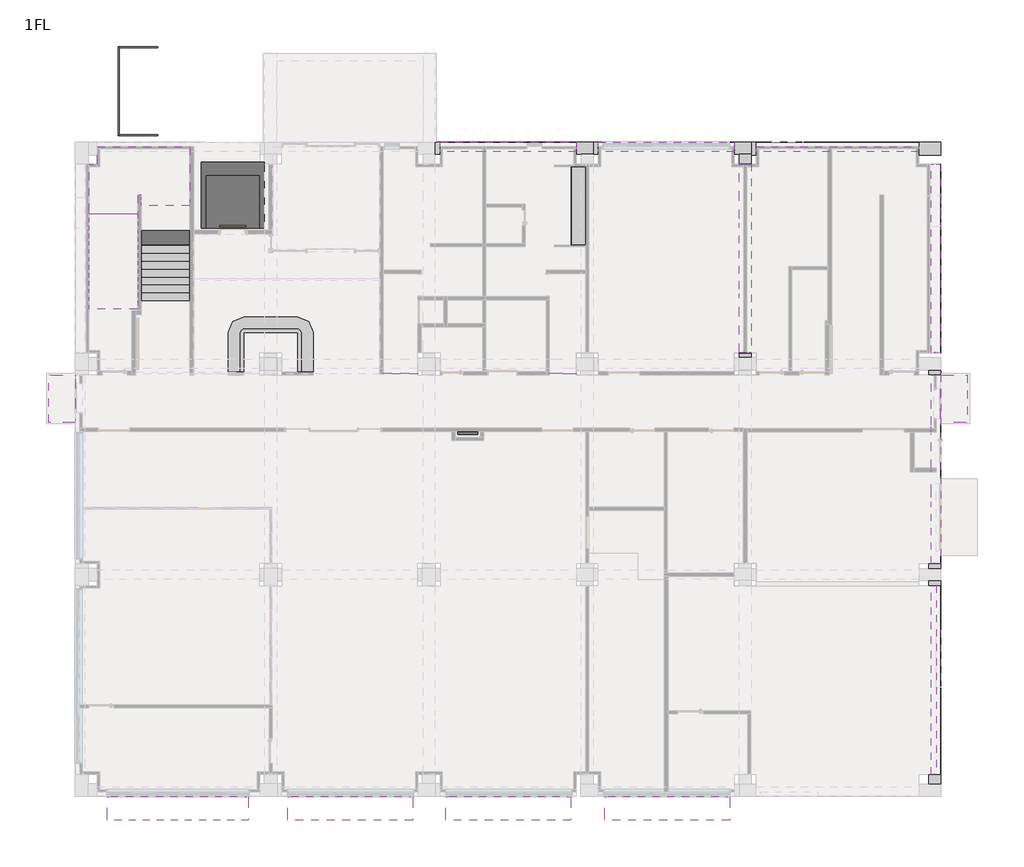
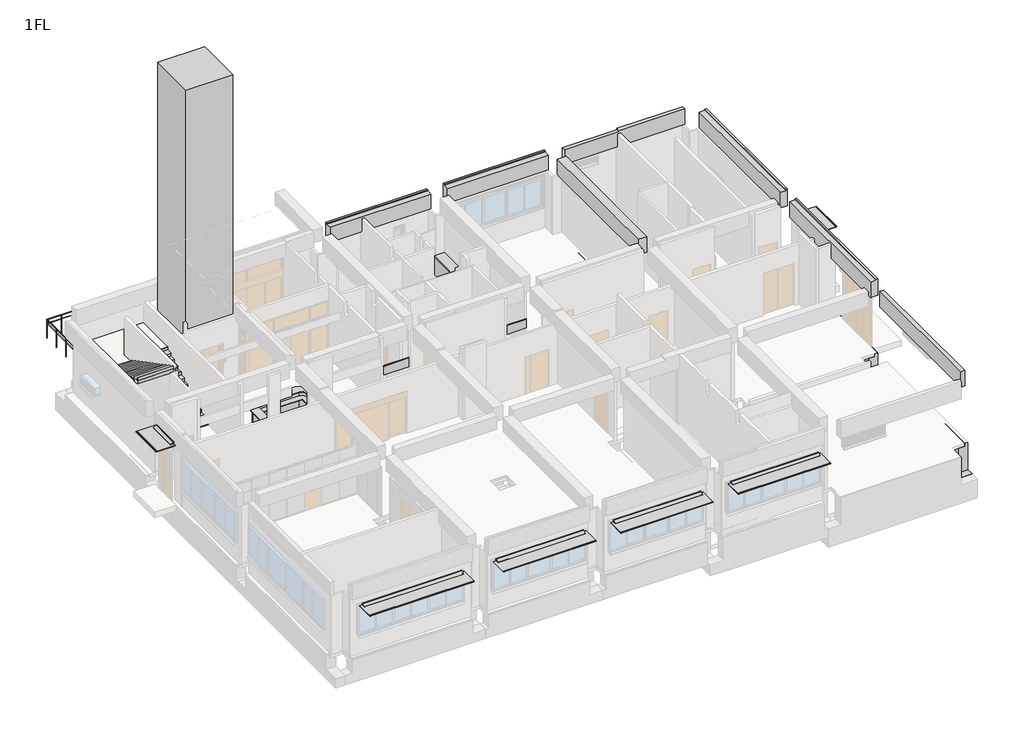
# One storey, part 7 of 7: 15 beams, 10 proxies, 2 stair flights, 1 flow terminal, 1 furniture element, 1 railing, 1 slab.
"""IFC4 building model written with IfcOpenShell, lengths in millimetres."""

from ifc_helpers import new_model, si_unit, frame, origin, place, context, project, spatial, polyline, outline, extrude, faceted_brep, transform, mapped, element, save
from components import generic_models_889831fe, generic_models_706210b3, specialty_equipment_ac76b24c, generic_models_86fe092a, mechanical_equipment_42b1760c, generic_models_8fc78ecc, generic_models_3a1368d3, flow_terminal_46fab2b1, furniture_925915f6

model = new_model("IFC4")

# Units and contexts
model_context = context("Model", 3, world=origin())
ifc_project = project(units=[si_unit("LENGTHUNIT", "METRE", prefix="MILLI")], contexts=[model_context])

# Site, building, storey
site = spatial("IfcSite", under=ifc_project)
building = spatial("IfcBuilding", under=site)
storey = spatial("IfcBuildingStorey", under=building, Name="1FL", Elevation=0.0)

# Beams
placement = place(None, origin())
element("IfcBeam", 1, ObjectType="営_RC梁 : 2-RG1 350*850", at=placement, inside=storey, context=model_context, shape_type="Brep", body=[
    faceted_brep([(18580.0, 24050.0, 3150.0), (18580.0, 24250.0, 3150.0), (18580.0, 24420.0, 3150.0), (18580.0, 24420.0, 4000.0), (18580.0, 24335.0, 4000.0), (18580.0, 24335.0, 3940.0), (18580.0, 24250.0, 3940.0), (18580.0, 24050.0, 3940.0), (13420.0, 24420.0, 4000.0), (13420.0, 24420.0, 3150.0), (13420.0, 24250.0, 3150.0), (13420.0, 24050.0, 3150.0), (13420.0, 24050.0, 3940.0), (13420.0, 24250.0, 3940.0), (13420.0, 24335.0, 3940.0), (13420.0, 24335.0, 4000.0), (15040.0, 24050.0, 3150.0), (15160.0, 24050.0, 3150.0)], [[[0, 1, 2, 3, 4, 5, 6, 7]], [[8, 9, 10, 11, 12, 13, 14, 15]], [[11, 16, 17, 0, 7, 12]], [[2, 1, 0, 17, 16, 11, 10, 9]], [[3, 2, 9, 8]], [[3, 8, 15, 4]], [[5, 14, 13, 12, 7, 6]], [[14, 5, 4, 15]]]),
])
element("IfcBeam", 2, ObjectType="営_RC梁 : 2-RG1 350*850", at=placement, inside=storey, context=model_context, shape_type="Brep", body=[
    faceted_brep([(24580.0, 24050.0, 3150.0), (24580.0, 24250.0, 3150.0), (24580.0, 24420.0, 3150.0), (24580.0, 24420.0, 4000.0), (24580.0, 24335.0, 4000.0), (24580.0, 24335.0, 3940.0), (24580.0, 24250.0, 3940.0), (24580.0, 24050.0, 3940.0), (19420.0, 24420.0, 4000.0), (19420.0, 24420.0, 3150.0), (19420.0, 24250.0, 3150.0), (19420.0, 24050.0, 3150.0), (19420.0, 24050.0, 3940.0), (19420.0, 24250.0, 3940.0), (19420.0, 24335.0, 3940.0), (19420.0, 24335.0, 4000.0)], [[[0, 1, 2, 3, 4, 5, 6, 7]], [[8, 9, 10, 11, 12, 13, 14, 15]], [[11, 0, 7, 12]], [[2, 1, 0, 11, 10, 9]], [[3, 2, 9, 8]], [[3, 8, 15, 4]], [[5, 14, 13, 12, 7, 6]], [[14, 5, 4, 15]]]),
])
element("IfcBeam", 3, ObjectType="営_RC梁 : 2-RG1 350*850", at=placement, inside=storey, context=model_context, shape_type="SweptSolid", body=[
    extrude(outline(polyline([(3150.0, 31579.9999994), (4000.0, 31579.9999994), (4000.0, 28200.0), (3940.0, 28200.0), (3940.0, 25420.0), (3150.0, 25420.0), (3150.0, 31579.9999994)])), frame((0.0, 24050.0, 0.0), z_axis=(0.0, 1.0, 0.0), x_axis=(0.0, 0.0, 1.0)), (0.0, 0.0, 1.0), 200.0),
])
element("IfcBeam", 4, ObjectType="営_RC梁 : 2-4G12 450*900", at=placement, inside=storey, context=model_context, shape_type="Brep", body=[
    faceted_brep([(25225.0, 16420.0, 3100.0), (25225.0, 23580.0, 3100.0), (25225.0, 23580.0, 3940.0), (25225.0, 16420.0, 3940.0), (25060.0, 16420.0, 3100.0), (24940.0, 16420.0, 3100.0), (24775.0, 16420.0, 3100.0), (24775.0, 23580.0, 3100.0), (24940.0, 23580.0, 3100.0), (25060.0, 23580.0, 3100.0), (24775.0, 16420.0, 3940.0), (24775.0, 18495.0, 3940.0), (24775.0, 18845.0, 3940.0), (24775.0, 21165.0, 3940.0), (24775.0, 21515.0, 3940.0), (24775.0, 23580.0, 3940.0)], [[[0, 1, 2, 3]], [[0, 4, 5, 6, 7, 8, 9, 1]], [[7, 6, 10, 11, 12, 13, 14, 15]], [[6, 5, 4, 0, 3, 10]], [[1, 9, 8, 7, 15, 2]], [[3, 2, 15, 14, 13, 12, 11, 10]]]),
])
element("IfcBeam", 5, ObjectType="営_RC梁 : 2-RG11 350*900", at=placement, inside=storey, context=model_context, shape_type="SweptSolid", body=[
    extrude(outline(polyline([(32050.0, 420.0), (32050.0, 7580.0), (32250.0, 7580.0), (32250.0, 420.0), (32050.0, 420.0)])), frame((0.0, 0.0, 3100.0), z_axis=(0.0, 0.0, 1.0), x_axis=(1.0, 0.0, 0.0)), (0.0, 0.0, 1.0), 840.0),
])
element("IfcBeam", 6, ObjectType="営_RC梁 : 2-RG11 350*900", at=placement, inside=storey, context=model_context, shape_type="Brep", body=[
    faceted_brep([(32420.0, 15580.0, 4000.0), (32420.0, 15580.0, 3100.0), (32250.0, 15580.0, 3100.0), (32050.0, 15580.0, 3100.0), (32050.0, 15580.0, 3940.0), (32250.0, 15580.0, 3940.0), (32325.0, 15580.0, 3940.0), (32325.0, 15580.0, 4000.0), (32050.0, 8420.0, 3100.0), (32250.0, 8420.0, 3100.0), (32420.0, 8420.0, 3100.0), (32420.0, 8420.0, 4000.0), (32325.0, 8420.0, 4000.0), (32325.0, 8420.0, 3940.0), (32250.0, 8420.0, 3940.0), (32050.0, 8420.0, 3940.0), (32050.0, 11905.0, 3100.0), (32050.0, 12055.0, 3100.0), (32050.0, 13405.0, 3100.0), (32050.0, 13555.0, 3100.0), (32050.0, 10575.0, 3940.0), (32050.0, 10925.0, 3940.0), (32050.0, 13325.0, 3940.0), (32050.0, 13675.0, 3940.0)], [[[0, 1, 2, 3, 4, 5, 6, 7]], [[8, 9, 10, 11, 12, 13, 14, 15]], [[1, 0, 11, 10]], [[3, 2, 1, 10, 9, 8, 16, 17, 18, 19]], [[3, 19, 18, 17, 16, 8, 15, 20, 21, 22, 23, 4]], [[11, 0, 7, 12]], [[13, 6, 5, 4, 23, 22, 21, 20, 15, 14]], [[6, 13, 12, 7]]]),
])
element("IfcBeam", 7, ObjectType="営_RC梁 : 2-RG11 350*900", at=placement, inside=storey, context=model_context, shape_type="Brep", body=[
    faceted_brep([(32420.0, 23580.0, 4000.0), (32420.0, 23580.0, 3100.0), (32250.0, 23580.0, 3100.0), (32050.0, 23580.0, 3100.0), (32050.0, 23580.0, 3940.0), (32250.0, 23580.0, 3940.0), (32325.0, 23580.0, 3940.0), (32325.0, 23580.0, 4000.0), (32050.0, 16420.0, 3100.0), (32250.0, 16420.0, 3100.0), (32420.0, 16420.0, 3100.0), (32420.0, 16420.0, 4000.0), (32325.0, 16420.0, 4000.0), (32325.0, 16420.0, 3940.0), (32250.0, 16420.0, 3940.0), (32050.0, 16420.0, 3940.0), (32325.0, 16669.8819845, 4000.0), (32325.0, 16669.8819845, 3940.0)], [[[0, 1, 2, 3, 4, 5, 6, 7]], [[8, 9, 10, 11, 12, 13, 14, 15]], [[1, 0, 11, 10]], [[3, 2, 1, 10, 9, 8]], [[3, 8, 15, 4]], [[11, 0, 7, 16, 12]], [[17, 6, 5, 4, 15, 14, 13]], [[17, 13, 12, 16]], [[6, 17, 16, 7]]]),
])
element("IfcBeam", 8, ObjectType="営_RC梁 : FG3 450*1850", at=placement, inside=storey, context=model_context, shape_type="Brep", body=[
    faceted_brep([(19225.0, 23950.0, -1950.0), (19225.0, 23950.0, -1350.0), (18775.0, 23950.0, -1350.0), (18600.0, 23950.0, -1350.0), (18580.0, 23950.0, -1350.0), (18580.0, 23950.0, -160.0), (13420.0, 23950.0, -160.0), (13420.0, 23950.0, -1350.0), (13400.0, 23950.0, -1350.0), (13225.0, 23950.0, -1350.0), (13225.0, 23950.0, -1950.0), (14350.0, 23950.0, -1950.0), (17650.0, 23950.0, -1950.0), (18775.0, 23950.0, -1950.0), (19225.0, 24420.0, -1950.0), (13225.0, 24420.0, -1950.0), (14350.0, 24420.0, -1950.0), (17650.0, 24420.0, -1950.0), (13420.0, 24420.0, -1350.0), (13420.0, 24420.0, -10.0), (16740.0, 24420.0, -10.0), (17260.0, 24420.0, -10.0), (18580.0, 24420.0, -10.0), (18580.0, 24420.0, -1350.0), (19225.0, 24420.0, -1350.0), (13225.0, 24420.0, -1350.0), (13420.0, 24250.0, -10.0), (16710.0, 24250.0, -10.0), (17290.0, 24250.0, -10.0), (18580.0, 24250.0, -10.0), (13420.0, 24250.0, -160.0), (18580.0, 24250.0, -160.0)], [[[0, 1, 2, 3, 4, 5, 6, 7, 8, 9, 10, 11, 12, 13]], [[14, 0, 13, 12, 11, 10, 15, 16, 17]], [[18, 19, 20, 21, 22, 23, 24, 14, 17, 16, 15, 25]], [[22, 21, 20, 19, 26, 27, 28, 29]], [[19, 18, 7, 6, 30, 26]], [[23, 22, 29, 31, 5, 4]], [[0, 14, 24, 1]], [[7, 18, 25, 9, 8]], [[23, 4, 3, 2, 1, 24]], [[10, 9, 25, 15]], [[31, 30, 6, 5]], [[30, 31, 29, 28, 27, 26]]]),
])
element("IfcBeam", 9, ObjectType="営_RC梁 : FG3 450*1850", at=placement, inside=storey, context=model_context, shape_type="Brep", body=[
    faceted_brep([(25225.0, 23950.0, -1950.0), (25225.0, 23950.0, -1350.0), (24775.0, 23950.0, -1350.0), (24600.0, 23950.0, -1350.0), (24580.0, 23950.0, -1350.0), (24580.0, 23950.0, -250.0), (19420.0, 23950.0, -250.0), (19420.0, 23950.0, -1350.0), (19400.0, 23950.0, -1350.0), (19225.0, 23950.0, -1350.0), (19225.0, 23950.0, -1950.0), (20350.0, 23950.0, -1950.0), (23650.0, 23950.0, -1950.0), (24775.0, 23950.0, -1950.0), (25225.0, 24420.0, -1950.0), (19225.0, 24420.0, -1950.0), (20350.0, 24420.0, -1950.0), (23650.0, 24420.0, -1950.0), (19420.0, 24420.0, -1350.0), (19420.0, 24420.0, -10.0), (24580.0, 24420.0, -10.0), (24580.0, 24420.0, -1350.0), (25225.0, 24420.0, -1350.0), (19225.0, 24420.0, -1350.0), (19420.0, 24250.0, -10.0), (19420.0, 23950.0, -10.0), (24580.0, 23950.0, -10.0), (24580.0, 24250.0, -10.0), (19420.0, 24250.0, -250.0), (19420.0, 24250.0, -100.0), (19420.0, 23950.0, -100.0), (24580.0, 23950.0, -100.0), (24580.0, 24250.0, -100.0), (24580.0, 24250.0, -250.0)], [[[0, 1, 2, 3, 4, 5, 6, 7, 8, 9, 10, 11, 12, 13]], [[14, 0, 13, 12, 11, 10, 15, 16, 17]], [[18, 19, 20, 21, 22, 14, 17, 16, 15, 23]], [[19, 24, 25, 26, 27, 20]], [[19, 18, 7, 6, 28, 29, 30, 25, 24]], [[21, 20, 27, 26, 31, 32, 33, 5, 4]], [[0, 14, 22, 1]], [[7, 18, 23, 9, 8]], [[21, 4, 3, 2, 1, 22]], [[10, 9, 23, 15]], [[33, 28, 6, 5]], [[29, 32, 31, 30]], [[28, 33, 32, 29]], [[26, 25, 30, 31]]]),
])
element("IfcBeam", 10, ObjectType="営_RC梁 : FG13 450*1850", at=placement, inside=storey, context=model_context, shape_type="Brep", body=[
    faceted_brep([(25225.0, 16420.0, -1500.0), (25225.0, 16400.0, -1500.0), (25225.0, 16245.0, -1500.0), (25225.0, 16245.0, -1950.0), (25225.0, 17650.0, -1950.0), (25225.0, 22650.0, -1950.0), (25225.0, 23930.0, -1950.0), (25225.0, 23950.0, -1950.0), (25225.0, 23950.0, -1350.0), (25225.0, 23930.0, -1350.0), (25225.0, 23600.0, -1350.0), (25225.0, 23580.0, -1350.0), (25225.0, 23580.0, -160.0), (25225.0, 16420.0, -160.0), (24775.0, 16245.0, -1950.0), (24775.0, 17650.0, -1950.0), (24775.0, 22650.0, -1950.0), (24775.0, 23950.0, -1950.0), (24775.0, 16245.0, -1500.0), (24775.0, 16420.0, -1500.0), (24775.0, 16400.0, -1500.0), (24775.0, 23580.0, -1350.0), (24775.0, 23950.0, -1350.0), (24775.0, 23600.0, -1350.0), (25000.0, 23580.0, -160.0), (25000.0, 16420.0, -160.0), (25000.0, 16420.0, -250.0), (25000.0, 23580.0, -250.0), (24775.0, 23580.0, -250.0), (24775.0, 21515.0, -250.0), (24775.0, 21165.0, -250.0), (24775.0, 16420.0, -250.0)], [[[0, 1, 2, 3, 4, 5, 6, 7, 8, 9, 10, 11, 12, 13]], [[3, 14, 15, 16, 17, 7, 6, 5, 4]], [[14, 3, 2, 18]], [[0, 19, 20, 18, 2, 1]], [[21, 11, 10, 9, 8, 22, 23]], [[8, 7, 17, 22]], [[13, 12, 24, 25]], [[26, 27, 28, 29, 30, 31]], [[27, 26, 25, 24]], [[18, 20, 19, 31, 30, 29, 28, 21, 23, 22, 17, 16, 15, 14]], [[19, 0, 13, 25, 26, 31]], [[11, 21, 28, 27, 24, 12]]]),
    faceted_brep([(24775.0, 16420.0, -10.0), (24775.0, 23580.0, -10.0), (24775.0, 23580.0, -100.0), (24775.0, 16420.0, -100.0), (25000.0, 16420.0, -10.0), (25000.0, 23580.0, -10.0), (25000.0, 16420.0, -100.0), (25000.0, 23580.0, -100.0)], [[[0, 1, 2, 3]], [[1, 0, 4, 5]], [[4, 0, 3, 6]], [[1, 5, 7, 2]], [[5, 4, 6, 7]], [[3, 2, 7, 6]]]),
])
element("IfcBeam", 11, ObjectType="営_RC梁 : FG3 450*1850", at=placement, inside=storey, context=model_context, shape_type="Brep", body=[
    faceted_brep([(25225.0, 23930.0, -1350.0), (25225.0, 23930.0, -1950.0), (26350.0, 23930.0, -1950.0), (28025.0, 23930.0, -1950.0), (28395.0, 23930.0, -1950.0), (30650.0, 23930.0, -1950.0), (32420.0, 23930.0, -1950.0), (32420.0, 23930.0, -1354.2105263), (32420.0, 23930.0, -1350.0), (32400.0, 23930.0, -1350.0), (31600.0, 23930.0, -1350.0), (31580.0, 23930.0, -1350.0), (31580.0, 23930.0, -160.0), (28395.0, 23930.0, -160.0), (28025.0, 23930.0, -160.0), (25420.0, 23930.0, -160.0), (25420.0, 23930.0, -1350.0), (25400.0, 23930.0, -1350.0), (32420.0, 24420.0, -1950.0), (25225.0, 23950.0, -1950.0), (25225.0, 24420.0, -1950.0), (26350.0, 24420.0, -1950.0), (30650.0, 24420.0, -1950.0), (25420.0, 24420.0, -1350.0), (25420.0, 24420.0, -10.0), (31580.0, 24420.0, -10.0), (31580.0, 24420.0, -1350.0), (32420.0, 24420.0, -1350.0), (32420.0, 24420.0, -1354.2105263), (25225.0, 24420.0, -1350.0), (25420.0, 24250.0, -10.0), (31580.0, 24250.0, -10.0), (25225.0, 23950.0, -1350.0), (25420.0, 24250.0, -160.0), (31580.0, 24250.0, -160.0)], [[[0, 1, 2, 3, 4, 5, 6, 7, 8, 9, 10, 11, 12, 13, 14, 15, 16, 17]], [[18, 6, 5, 4, 3, 2, 1, 19, 20, 21, 22]], [[23, 24, 25, 26, 27, 28, 18, 22, 21, 20, 29]], [[25, 24, 30, 31]], [[20, 19, 1, 0, 32, 29]], [[24, 23, 16, 15, 33, 30]], [[26, 25, 31, 34, 12, 11]], [[6, 18, 28, 27, 8, 7]], [[16, 23, 29, 32, 0, 17]], [[26, 11, 10, 9, 8, 27]], [[34, 33, 15, 14, 13, 12]], [[33, 34, 31, 30]]]),
])
element("IfcBeam", 12, ObjectType="営_RC梁 : FG14 450*2400", at=placement, inside=storey, context=model_context, shape_type="Brep", body=[
    faceted_brep([(32420.0, 420.0, -10.0), (32420.0, 420.0, -1500.0), (32420.0, 50.0, -1500.0), (32420.0, 50.0, -2500.0), (32420.0, 1500.0, -2500.0), (32420.0, 6500.0, -2500.0), (32420.0, 7775.0, -2500.0), (32420.0, 7775.0, -1500.0), (32420.0, 7580.0, -1500.0), (32420.0, 7580.0, -10.0), (31950.0, 50.0, -2500.0), (31950.0, 1500.0, -2500.0), (31950.0, 6500.0, -2500.0), (31950.0, 7775.0, -2500.0), (31950.0, 50.0, -1500.0), (31950.0, 400.0, -1500.0), (31950.0, 420.0, -1500.0), (31950.0, 420.0, -160.0), (31950.0, 7580.0, -160.0), (31950.0, 7580.0, -1500.0), (31950.0, 7600.0, -1500.0), (31950.0, 7775.0, -1500.0), (32250.0, 7580.0, -10.0), (32250.0, 420.0, -10.0), (32250.0, 420.0, -160.0), (32250.0, 7580.0, -160.0)], [[[0, 1, 2, 3, 4, 5, 6, 7, 8, 9]], [[3, 10, 11, 12, 13, 6, 5, 4]], [[14, 15, 16, 17, 18, 19, 20, 21, 13, 12, 11, 10]], [[0, 9, 22, 23]], [[1, 0, 23, 24, 17, 16]], [[9, 8, 19, 18, 25, 22]], [[1, 16, 15, 14, 2]], [[19, 8, 7, 21, 20]], [[3, 2, 14, 10]], [[7, 6, 13, 21]], [[24, 25, 18, 17]], [[25, 24, 23, 22]]]),
])
element("IfcBeam", 13, ObjectType="営_RC梁 : FG14 450*2400", at=placement, inside=storey, context=model_context, shape_type="Brep", body=[
    faceted_brep([(32420.0, 15580.0, -1900.0), (32420.0, 15580.0, -10.0), (32420.0, 8420.0, -10.0), (32420.0, 8420.0, -1500.0), (32420.0, 8225.0, -1500.0), (32420.0, 8225.0, -2500.0), (32420.0, 9500.0, -2500.0), (32420.0, 14650.0, -2500.0), (32420.0, 15775.0, -2500.0), (32420.0, 15775.0, -1900.0), (31950.0, 8225.0, -2500.0), (31950.0, 9500.0, -2500.0), (31950.0, 14650.0, -2500.0), (31950.0, 15775.0, -2500.0), (31950.0, 8225.0, -1500.0), (31950.0, 8400.0, -1500.0), (31950.0, 8420.0, -1500.0), (31950.0, 8420.0, -160.0), (31950.0, 10575.0, -160.0), (31950.0, 10925.0, -160.0), (31950.0, 13325.0, -160.0), (31950.0, 13675.0, -160.0), (31950.0, 15580.0, -160.0), (31950.0, 15580.0, -1900.0), (31950.0, 15600.0, -1900.0), (31950.0, 15775.0, -1900.0), (32250.0, 15580.0, -10.0), (32250.0, 13555.0, -10.0), (32250.0, 8420.0, -10.0), (32250.0, 8420.0, -160.0), (32250.0, 15580.0, -160.0), (32250.0, 13555.0, -160.0)], [[[0, 1, 2, 3, 4, 5, 6, 7, 8, 9]], [[5, 10, 11, 12, 13, 8, 7, 6]], [[14, 15, 16, 17, 18, 19, 20, 21, 22, 23, 24, 25, 13, 12, 11, 10]], [[2, 1, 26, 27, 28]], [[16, 3, 2, 28, 29, 17]], [[1, 0, 23, 22, 30, 26]], [[3, 16, 15, 14, 4]], [[23, 0, 9, 25, 24]], [[5, 4, 14, 10]], [[9, 8, 13, 25]], [[29, 31, 30, 22, 21, 20, 19, 18, 17]], [[31, 27, 26, 30]], [[27, 31, 29, 28]]]),
])
element("IfcBeam", 14, ObjectType="営_RC梁 : FG11 450*1200", at=placement, inside=storey, context=model_context, shape_type="Brep", body=[
    faceted_brep([(32420.0, 16420.0, -10.0), (32420.0, 16420.0, -1300.0), (32420.0, 23580.0, -1300.0), (32420.0, 23580.0, -10.0), (31930.0, 16420.0, -1300.0), (31930.0, 23580.0, -1300.0), (31930.0, 16420.0, -160.0), (31930.0, 17955.0, -160.0), (31930.0, 18245.0, -160.0), (31930.0, 23580.0, -160.0), (32250.0, 23580.0, -10.0), (32250.0, 16420.0, -10.0), (32250.0, 16420.0, -160.0), (32250.0, 23580.0, -160.0)], [[[0, 1, 2, 3]], [[1, 4, 5, 2]], [[5, 4, 6, 7, 8, 9]], [[0, 3, 10, 11]], [[1, 0, 11, 12, 6, 4]], [[3, 2, 5, 9, 13, 10]], [[12, 13, 9, 8, 7, 6]], [[13, 12, 11, 10]]]),
])
element("IfcBeam", 15, ObjectType="営_RC梁 : B4 350*750", at=placement, inside=storey, context=model_context, shape_type="Brep", body=[
    faceted_brep([(28395.0, 16245.0, -1950.0), (28395.0, 23930.0, -1950.0), (28395.0, 23930.0, -160.0), (28395.0, 18245.0, -160.0), (28395.0, 17955.0, -160.0), (28395.0, 16245.0, -160.0), (28025.0, 16245.0, -1950.0), (28025.0, 23930.0, -1950.0), (28025.0, 16245.0, -160.0), (28025.0, 23930.0, -160.0)], [[[0, 1, 2, 3, 4, 5]], [[0, 6, 7, 1]], [[7, 6, 8, 9]], [[1, 7, 9, 2]], [[6, 0, 5, 8]], [[5, 4, 3, 2, 9, 8]]]),
])

# Proxies
generic_models_shape = generic_models_889831fe(model_context)
element("IfcBuildingElementProxy", 16, Name="営_付庇_窓 : 付庇", ObjectType="営_付庇_窓 : 付庇", at=placement, inside=storey, context=model_context, shape_type="MappedRepresentation", body=[
    mapped(generic_models_shape, transform((3476.2951348, -420.0, 0.0), x_axis=(1.0, 0.0, 0.0), y_axis=(0.0, 1.0, 0.0), z_axis=(0.0, 0.0, 1.0))),
])
generic_models_2_shape = generic_models_706210b3(model_context)
element("IfcBuildingElementProxy", 17, Name="営_付庇_窓 : 付庇", ObjectType="営_付庇_窓 : 付庇", at=placement, inside=storey, context=model_context, shape_type="MappedRepresentation", body=[
    mapped(generic_models_2_shape, transform((10011.2951348, -420.0, 0.0), x_axis=(1.0, 0.0, 0.0), y_axis=(0.0, 1.0, 0.0), z_axis=(0.0, 0.0, 1.0))),
])
element("IfcBuildingElementProxy", 18, Name="営_付庇_窓 : 付庇", ObjectType="営_付庇_窓 : 付庇", at=placement, inside=storey, context=model_context, shape_type="MappedRepresentation", body=[
    mapped(generic_models_2_shape, transform((16011.2951348, -420.0, 0.0), x_axis=(1.0, 0.0, 0.0), y_axis=(0.0, 1.0, 0.0), z_axis=(0.0, 0.0, 1.0))),
])
element("IfcBuildingElementProxy", 19, Name="営_付庇_窓 : 付庇", ObjectType="営_付庇_窓 : 付庇", at=placement, inside=storey, context=model_context, shape_type="MappedRepresentation", body=[
    mapped(generic_models_2_shape, transform((22031.2951348, -420.0, 0.0), x_axis=(1.0, 0.0, 0.0), y_axis=(0.0, 1.0, 0.0), z_axis=(0.0, 0.0, 1.0))),
])
specialty_equipment_shape = specialty_equipment_ac76b24c(model_context)
element("IfcBuildingElementProxy", 20, Name="営_屋内消火栓 : 屋内消火栓", ObjectType="営_屋内消火栓 : 屋内消火栓", at=placement, inside=storey, context=model_context, shape_type="MappedRepresentation", body=[
    mapped(specialty_equipment_shape, transform((14470.0, 13560.0, 0.0), x_axis=(1.0, 0.0, 0.0), y_axis=(0.0, 1.0, 0.0), z_axis=(0.0, 0.0, 1.0))),
])
generic_models_3_shape = generic_models_86fe092a(model_context)
element("IfcBuildingElementProxy", 21, Name="営_付庇_小 : 付庇_小", ObjectType="営_付庇_小 : 付庇_小", at=placement, inside=storey, context=model_context, shape_type="MappedRepresentation", body=[
    mapped(generic_models_3_shape, transform((-419.6538678, 14680.0, 0.0), x_axis=(0.0, -1.0, 0.0), y_axis=(1.0, 0.0, 0.0), z_axis=(0.0, 0.0, 1.0))),
])
element("IfcBuildingElementProxy", 22, Name="営_付庇_小 : 付庇_小", ObjectType="営_付庇_小 : 付庇_小", at=placement, inside=storey, context=model_context, shape_type="MappedRepresentation", body=[
    mapped(generic_models_3_shape, transform((32420.0, 14680.0, 0.0), x_axis=(0.0, 1.0, 0.0), y_axis=(-1.0, 0.0, 0.0), z_axis=(0.0, 0.0, 1.0))),
])
mechanical_equipment_shape = mechanical_equipment_42b1760c(model_context)
element("IfcBuildingElementProxy", 23, Name="営_EV 3D 簡易 : 営_EV 3D 簡易", ObjectType="営_EV 3D 簡易 : 営_EV 3D 簡易", at=placement, inside=storey, context=model_context, shape_type="MappedRepresentation", body=[
    mapped(mechanical_equipment_shape, transform((5560.0, 21000.0, 0.0), x_axis=(1.0, 0.0, 0.0), y_axis=(0.0, 1.0, 0.0), z_axis=(0.0, 0.0, 1.0))),
])
generic_models_4_shape = generic_models_8fc78ecc(model_context)
element("IfcBuildingElementProxy", 24, Name="防煙垂壁 : 可動防煙垂壁", ObjectType="防煙垂壁 : 可動防煙垂壁", at=placement, inside=storey, context=model_context, shape_type="MappedRepresentation", body=[
    mapped(generic_models_4_shape, transform((12580.0, 15630.0, 0.0), x_axis=(-1.0, 0.0, 0.0), y_axis=(0.0, -1.0, 0.0), z_axis=(0.0, 0.0, 1.0))),
])
generic_models_5_shape = generic_models_3a1368d3(model_context)
element("IfcBuildingElementProxy", 25, Name="防煙垂壁 : 可動防煙垂壁", ObjectType="防煙垂壁 : 可動防煙垂壁", at=placement, inside=storey, context=model_context, shape_type="MappedRepresentation", body=[
    mapped(generic_models_5_shape, transform((18580.0, 15630.0, 0.0), x_axis=(-1.0, 0.0, 0.0), y_axis=(0.0, -1.0, 0.0), z_axis=(0.0, 0.0, 1.0))),
])

# Flow terminal
flow_terminal_shape = flow_terminal_46fab2b1(model_context)
element("IfcFlowTerminal", 26, ObjectType="ライニング : ライニング", at=placement, inside=storey, context=model_context, shape_type="MappedRepresentation", body=[
    mapped(flow_terminal_shape, transform((19000.0, 21870.0, 0.0), x_axis=(0.0, 1.0, 0.0), y_axis=(-1.0, 0.0, 0.0), z_axis=(0.0, 0.0, 1.0))),
])

# Furniture
furniture_shape = furniture_925915f6(model_context)
element("IfcFurniture", 27, ObjectType="営_受付カウンター_3D : 受付カウンター_3D", at=placement, inside=storey, context=model_context, shape_type="MappedRepresentation", body=[
    mapped(furniture_shape, transform((0.0, 0.0, 0.0), x_axis=(1.0, 0.0, 0.0), y_axis=(0.0, 1.0, 0.0), z_axis=(0.0, 0.0, 1.0))),
])

# Railing
element("IfcRailing", 28, ObjectType="外部スロープ手摺_H=1000", at=placement, inside=storey, context=model_context, shape_type="SolidModel", body=[
    faceted_brep([(1211.0, 28044.0, 801.0), (1249.0, 28006.0, 801.0), (1249.0, 24694.0, 801.0), (1211.0, 24656.0, 801.0), (1211.0, 28044.0, 810.0), (1211.0, 24656.0, 810.0), (1249.0, 28006.0, 810.0), (1249.0, 24694.0, 810.0), (2715.0, 28006.0, 801.0), (2715.0, 28044.0, 801.0), (2715.0, 28044.0, 810.0), (2715.0, 28006.0, 810.0), (2715.0, 24694.0, 801.0), (2715.0, 24694.0, 810.0), (2715.0, 24656.0, 810.0), (2715.0, 24656.0, 801.0)], [[[0, 1, 2, 3]], [[4, 0, 3, 5]], [[6, 4, 5, 7]], [[1, 6, 7, 2]], [[8, 9, 10, 11]], [[9, 8, 1, 0]], [[10, 9, 0, 4]], [[11, 10, 4, 6]], [[8, 11, 6, 1]], [[12, 13, 14, 15]], [[3, 2, 12, 15]], [[5, 3, 15, 14]], [[7, 5, 14, 13]], [[2, 7, 13, 12]]]),
    faceted_brep([(1217.5, 28037.5, 610.0), (1217.5, 28037.5, 601.0), (1217.5, 24662.5, 601.0), (1217.5, 24662.5, 610.0), (1242.5, 28012.5, 610.0), (1242.5, 24687.5, 610.0), (1242.5, 28012.5, 601.0), (1242.5, 24687.5, 601.0), (2715.0, 28037.5, 601.0), (2715.0, 28037.5, 610.0), (2715.0, 28012.5, 610.0), (2715.0, 28012.5, 601.0), (2715.0, 24662.5, 601.0), (2715.0, 24687.5, 601.0), (2715.0, 24687.5, 610.0), (2715.0, 24662.5, 610.0)], [[[0, 1, 2, 3]], [[4, 0, 3, 5]], [[6, 4, 5, 7]], [[1, 6, 7, 2]], [[8, 9, 10, 11]], [[9, 8, 1, 0]], [[10, 9, 0, 4]], [[11, 10, 4, 6]], [[8, 11, 6, 1]], [[12, 13, 14, 15]], [[3, 2, 12, 15]], [[5, 3, 15, 14]], [[7, 5, 14, 13]], [[2, 7, 13, 12]]]),
    extrude(outline(polyline([(1968.0, 24662.5), (1968.0, 24687.5), (1977.0, 24687.5), (1977.0, 24662.5), (1968.0, 24662.5)])), frame((0.0, 0.0, -190.0), z_axis=(0.0, 0.0, 1.0), x_axis=(1.0, 0.0, 0.0)), (0.0, 0.0, 1.0), 991.0),
    extrude(outline(polyline([(1217.5, 25517.0), (1242.5, 25517.0), (1242.5, 25508.0), (1217.5, 25508.0), (1217.5, 25517.0)])), frame((0.0, 0.0, -190.0), z_axis=(0.0, 0.0, 1.0), x_axis=(1.0, 0.0, 0.0)), (0.0, 0.0, 1.0), 991.0),
    extrude(outline(polyline([(1217.5, 26354.5), (1242.5, 26354.5), (1242.5, 26345.5), (1217.5, 26345.5), (1217.5, 26354.5)])), frame((0.0, 0.0, -190.0), z_axis=(0.0, 0.0, 1.0), x_axis=(1.0, 0.0, 0.0)), (0.0, 0.0, 1.0), 991.0),
    extrude(outline(polyline([(1217.5, 27192.0), (1242.5, 27192.0), (1242.5, 27183.0), (1217.5, 27183.0), (1217.5, 27192.0)])), frame((0.0, 0.0, -190.0), z_axis=(0.0, 0.0, 1.0), x_axis=(1.0, 0.0, 0.0)), (0.0, 0.0, 1.0), 991.0),
    extrude(outline(polyline([(1977.0, 28037.5), (1977.0, 28012.5), (1968.0, 28012.5), (1968.0, 28037.5), (1977.0, 28037.5)])), frame((0.0, 0.0, -190.0), z_axis=(0.0, 0.0, 1.0), x_axis=(1.0, 0.0, 0.0)), (0.0, 0.0, 1.0), 991.0),
    extrude(outline(polyline([(1217.5, 24679.5), (1242.5, 24679.5), (1242.5, 24670.5), (1217.5, 24670.5), (1217.5, 24679.5)])), frame((0.0, 0.0, -190.0), z_axis=(0.0, 0.0, 1.0), x_axis=(1.0, 0.0, 0.0)), (0.0, 0.0, 1.0), 991.0),
    extrude(outline(polyline([(1234.5, 28037.5), (1234.5, 28012.5), (1225.5, 28012.5), (1225.5, 28037.5), (1234.5, 28037.5)])), frame((0.0, 0.0, -190.0), z_axis=(0.0, 0.0, 1.0), x_axis=(1.0, 0.0, 0.0)), (0.0, 0.0, 1.0), 991.0),
    extrude(outline(polyline([(2660.5, 24662.5), (2660.5, 24687.5), (2669.5, 24687.5), (2669.5, 24662.5), (2660.5, 24662.5)])), frame((0.0, 0.0, -190.0), z_axis=(0.0, 0.0, 1.0), x_axis=(1.0, 0.0, 0.0)), (0.0, 0.0, 1.0), 991.0),
    extrude(outline(polyline([(2669.5, 28037.5), (2669.5, 28012.5), (2660.5, 28012.5), (2660.5, 28037.5), (2669.5, 28037.5)])), frame((0.0, 0.0, -190.0), z_axis=(0.0, 0.0, 1.0), x_axis=(1.0, 0.0, 0.0)), (0.0, 0.0, 1.0), 991.0),
])

# Slab
element("IfcSlab", 29, ObjectType="200+20", at=placement, inside=storey, context=model_context, shape_type="Brep", body=[
    faceted_brep([(115.0, 21700.0, 2030.0), (115.0, 21680.0, 2030.0), (1945.0, 21680.0, 2030.0), (1945.0, 21700.0, 2030.0), (1945.0, 21776.1491315, 2030.0), (1945.0, 22410.0, 2030.0), (2095.0, 22410.0, 2030.0), (2095.0, 22223.8508685, 2030.0), (2095.0, 22020.0, 2030.0), (3925.0, 22020.0, 2030.0), (3925.0, 22223.8508685, 2030.0), (3925.0, 24250.0, 2030.0), (420.0, 24250.0, 2030.0), (420.0, 23580.0, 2030.0), (115.0, 23580.0, 2030.0), (115.0, 21776.1491315, 2030.0), (2095.0, 22020.0, 1872.3076923), (2095.0, 22020.0, 1702.8476204), (3925.0, 22020.0, 1702.8476204), (3925.0, 22020.0, 1872.3076923), (3925.0, 22223.8508685, 1810.0), (3925.0, 24250.0, 1810.0), (420.0, 24250.0, 1810.0), (115.0, 21700.0, 1850.0271076), (115.0, 23580.0, 1810.0), (115.0, 21776.1491315, 1810.0), (115.0, 21680.0, 1860.5399281), (1945.0, 21680.0, 1860.5399281), (1945.0, 21700.0, 1850.0271076), (1945.0, 21776.1491315, 1810.0), (1945.0, 22410.0, 1810.0), (2095.0, 22223.8508685, 1810.0), (2095.0, 22410.0, 1810.0), (420.0, 23580.0, 1810.0)], [[[0, 1, 2, 3, 4, 5, 6, 7, 8, 9, 10, 11, 12, 13, 14, 15]], [[9, 8, 16, 17, 18, 19]], [[9, 19, 18, 20, 21, 11, 10]], [[12, 11, 21, 22]], [[23, 0, 15, 14, 24, 25]], [[2, 1, 26, 27]], [[3, 28, 29, 30, 5, 4]], [[20, 31, 32, 30, 29, 25, 24, 33, 22, 21]], [[31, 20, 18, 17]], [[25, 29, 28, 27, 26, 23]], [[6, 5, 30, 32]], [[6, 32, 31, 17, 16, 8, 7]], [[13, 12, 22, 33]], [[14, 13, 33, 24]], [[1, 0, 23, 26]], [[3, 2, 27, 28]]]),
    faceted_brep([(115.0, 21700.0, 2050.0), (1945.0, 21700.0, 2050.0), (1945.0, 22410.0, 2050.0), (2095.0, 22410.0, 2050.0), (2095.0, 22000.0, 2050.0), (3925.0, 22000.0, 2050.0), (3925.0, 24250.0, 2050.0), (420.0, 24250.0, 2050.0), (420.0, 23580.0, 2050.0), (115.0, 23580.0, 2050.0), (115.0, 21700.0, 2030.0), (115.0, 23580.0, 2030.0), (420.0, 23580.0, 2030.0), (420.0, 24250.0, 2030.0), (3925.0, 24250.0, 2030.0), (3925.0, 22020.0, 2030.0), (3925.0, 22000.0, 2030.0), (2095.0, 22000.0, 2030.0), (2095.0, 22020.0, 2030.0), (2095.0, 22410.0, 2030.0), (1945.0, 22410.0, 2030.0), (1945.0, 21700.0, 2030.0)], [[[0, 1, 2, 3, 4, 5, 6, 7, 8, 9]], [[10, 11, 12, 13, 14, 15, 16, 17, 18, 19, 20, 21]], [[1, 0, 10, 21]], [[2, 1, 21, 20]], [[3, 2, 20, 19]], [[4, 3, 19, 18, 17]], [[5, 4, 17, 16]], [[6, 5, 16, 15, 14]], [[7, 6, 14, 13]], [[8, 7, 13, 12]], [[9, 8, 12, 11]], [[0, 9, 11, 10]]]),
])

# Stair flights
element("IfcStairFlight", 30, ObjectType="150+20", at=placement, inside=storey, context=model_context, shape_type="SolidModel", body=[
    faceted_brep([(2095.0, 18720.0, 137.6923077), (2095.0, 18420.0, 137.6923077), (3925.0, 18420.0, 137.6923077), (3925.0, 18720.0, 137.6923077), (2095.0, 18720.0, 0.0), (2095.0, 18420.0, 0.0), (3925.0, 18420.0, 0.0), (3925.0, 18720.0, 0.0), (2095.0, 19020.0, 295.3846154), (2095.0, 18720.0, 295.3846154), (3925.0, 18720.0, 295.3846154), (3925.0, 19020.0, 295.3846154), (2095.0, 19020.0, 125.9245435), (2095.0, 18780.4362344, 0.0), (3925.0, 18780.4362344, 0.0), (3925.0, 19020.0, 125.9245435), (2095.0, 19320.0, 453.0769231), (2095.0, 19020.0, 453.0769231), (3925.0, 19020.0, 453.0769231), (3925.0, 19320.0, 453.0769231), (2095.0, 19320.0, 283.6168512), (3925.0, 19320.0, 283.6168512), (2095.0, 19620.0, 610.7692308), (2095.0, 19320.0, 610.7692308), (3925.0, 19320.0, 610.7692308), (3925.0, 19620.0, 610.7692308), (2095.0, 19620.0, 441.3091588), (3925.0, 19620.0, 441.3091588), (2095.0, 19920.0, 768.4615385), (2095.0, 19620.0, 768.4615385), (3925.0, 19620.0, 768.4615385), (3925.0, 19920.0, 768.4615385), (2095.0, 19920.0, 599.0014665), (3925.0, 19920.0, 599.0014665), (2095.0, 20220.0, 926.1538462), (2095.0, 19920.0, 926.1538462), (3925.0, 19920.0, 926.1538462), (3925.0, 20220.0, 926.1538462), (2095.0, 20220.0, 756.6937742), (3925.0, 20220.0, 756.6937742), (2095.0, 20520.0, 1083.8461538), (2095.0, 20220.0, 1083.8461538), (3925.0, 20220.0, 1083.8461538), (3925.0, 20520.0, 1083.8461538), (2095.0, 20520.0, 914.3860819), (3925.0, 20520.0, 914.3860819), (2095.0, 20820.0, 1241.5384615), (2095.0, 20520.0, 1241.5384615), (3925.0, 20520.0, 1241.5384615), (3925.0, 20820.0, 1241.5384615), (2095.0, 20820.0, 1072.0783896), (3925.0, 20820.0, 1072.0783896), (2095.0, 21120.0, 1399.2307692), (2095.0, 20820.0, 1399.2307692), (3925.0, 20820.0, 1399.2307692), (3925.0, 21120.0, 1399.2307692), (2095.0, 21120.0, 1229.7706973), (3925.0, 21120.0, 1229.7706973), (2095.0, 21420.0, 1556.9230769), (2095.0, 21120.0, 1556.9230769), (3925.0, 21120.0, 1556.9230769), (3925.0, 21420.0, 1556.9230769), (2095.0, 21420.0, 1387.463005), (3925.0, 21420.0, 1387.463005), (2095.0, 21720.0, 1714.6153846), (2095.0, 21420.0, 1714.6153846), (3925.0, 21420.0, 1714.6153846), (3925.0, 21720.0, 1714.6153846), (2095.0, 21720.0, 1545.1553127), (3925.0, 21720.0, 1545.1553127), (2095.0, 21720.0, 1872.3076923), (3925.0, 21720.0, 1872.3076923), (3925.0, 22000.0, 1872.3076923), (3925.0, 22020.0, 1872.3076923), (2095.0, 22020.0, 1872.3076923), (2095.0, 22000.0, 1872.3076923), (2095.0, 22020.0, 1702.8476204), (2095.0, 22000.0, 1692.3347999), (3925.0, 22000.0, 1692.3347999), (3925.0, 22020.0, 1702.8476204)], [[[0, 1, 2, 3]], [[1, 0, 4, 5]], [[2, 1, 5, 6]], [[3, 2, 6, 7]], [[8, 9, 10, 11]], [[4, 0, 9, 8, 12, 13]], [[0, 3, 10, 9]], [[3, 7, 14, 15, 11, 10]], [[16, 17, 18, 19]], [[17, 16, 20, 12, 8]], [[8, 11, 18, 17]], [[19, 18, 11, 15, 21]], [[22, 23, 24, 25]], [[23, 22, 26, 20, 16]], [[16, 19, 24, 23]], [[25, 24, 19, 21, 27]], [[28, 29, 30, 31]], [[29, 28, 32, 26, 22]], [[22, 25, 30, 29]], [[31, 30, 25, 27, 33]], [[34, 35, 36, 37]], [[35, 34, 38, 32, 28]], [[28, 31, 36, 35]], [[37, 36, 31, 33, 39]], [[40, 41, 42, 43]], [[41, 40, 44, 38, 34]], [[34, 37, 42, 41]], [[43, 42, 37, 39, 45]], [[46, 47, 48, 49]], [[47, 46, 50, 44, 40]], [[40, 43, 48, 47]], [[49, 48, 43, 45, 51]], [[52, 53, 54, 55]], [[53, 52, 56, 50, 46]], [[46, 49, 54, 53]], [[55, 54, 49, 51, 57]], [[58, 59, 60, 61]], [[59, 58, 62, 56, 52]], [[52, 55, 60, 59]], [[61, 60, 55, 57, 63]], [[64, 65, 66, 67]], [[65, 64, 68, 62, 58]], [[58, 61, 66, 65]], [[67, 66, 61, 63, 69]], [[70, 71, 72, 73, 74, 75]], [[64, 70, 75, 74, 76, 77, 68]], [[64, 67, 71, 70]], [[71, 67, 69, 78, 79, 73, 72]], [[74, 73, 79, 76]], [[5, 4, 13, 14, 7, 6]], [[14, 13, 12, 20, 26, 32, 38, 44, 50, 56, 62, 68, 77, 76, 79, 78, 69, 63, 57, 51, 45, 39, 33, 27, 21, 15]]]),
    extrude(outline(polyline([(18420.0, 137.6923077), (18420.0, 0.0), (18400.0, 0.0), (18400.0, 157.6923077), (18700.0, 157.6923077), (18700.0, 315.3846154), (19000.0, 315.3846154), (19000.0, 473.0769231), (19300.0, 473.0769231), (19300.0, 630.7692308), (19600.0, 630.7692308), (19600.0, 788.4615385), (19900.0, 788.4615385), (19900.0, 946.1538462), (20200.0, 946.1538462), (20200.0, 1103.8461538), (20500.0, 1103.8461538), (20500.0, 1261.5384615), (20800.0, 1261.5384615), (20800.0, 1419.2307692), (21100.0, 1419.2307692), (21100.0, 1576.9230769), (21400.0, 1576.9230769), (21400.0, 1734.6153846), (21700.0, 1734.6153846), (21700.0, 1892.3076923), (22000.0, 1892.3076923), (22000.0, 2030.0), (22020.0, 2030.0), (22020.0, 1872.3076923), (21720.0, 1872.3076923), (21720.0, 1714.6153846), (21420.0, 1714.6153846), (21420.0, 1556.9230769), (21120.0, 1556.9230769), (21120.0, 1399.2307692), (20820.0, 1399.2307692), (20820.0, 1241.5384615), (20520.0, 1241.5384615), (20520.0, 1083.8461538), (20220.0, 1083.8461538), (20220.0, 926.1538462), (19920.0, 926.1538462), (19920.0, 768.4615385), (19620.0, 768.4615385), (19620.0, 610.7692308), (19320.0, 610.7692308), (19320.0, 453.0769231), (19020.0, 453.0769231), (19020.0, 295.3846154), (18720.0, 295.3846154), (18720.0, 137.6923077), (18420.0, 137.6923077)])), frame((2095.0, 0.0, 0.0), z_axis=(1.0, 0.0, 0.0), x_axis=(0.0, 1.0, 0.0)), (0.0, 0.0, 1.0), 1830.0),
])
element("IfcStairFlight", 31, ObjectType="150+20", at=placement, inside=storey, context=model_context, shape_type="Brep", body=[
    faceted_brep([(1945.0, 21380.0, 2187.6923077), (1945.0, 21680.0, 2187.6923077), (115.0, 21680.0, 2187.6923077), (115.0, 21380.0, 2187.6923077), (1945.0, 21380.0, 2018.2322358), (1945.0, 21680.0, 1860.5399281), (1945.0, 21680.0, 2030.0), (115.0, 21680.0, 1860.5399281), (115.0, 21680.0, 2030.0), (115.0, 21380.0, 2018.2322358), (1945.0, 21080.0, 2345.3846154), (1945.0, 21380.0, 2345.3846154), (115.0, 21380.0, 2345.3846154), (115.0, 21080.0, 2345.3846154), (1945.0, 21080.0, 2175.9245435), (115.0, 21080.0, 2175.9245435), (1945.0, 20780.0, 2503.0769231), (1945.0, 21080.0, 2503.0769231), (115.0, 21080.0, 2503.0769231), (115.0, 20780.0, 2503.0769231), (1945.0, 20780.0, 2333.6168512), (115.0, 20780.0, 2333.6168512), (1945.0, 20480.0, 2660.7692308), (1945.0, 20780.0, 2660.7692308), (115.0, 20780.0, 2660.7692308), (115.0, 20480.0, 2660.7692308), (1945.0, 20480.0, 2491.3091588), (115.0, 20480.0, 2491.3091588), (1945.0, 20180.0, 2818.4615385), (1945.0, 20480.0, 2818.4615385), (115.0, 20480.0, 2818.4615385), (115.0, 20180.0, 2818.4615385), (1945.0, 20180.0, 2649.0014665), (115.0, 20180.0, 2649.0014665), (1945.0, 19880.0, 2976.1538462), (1945.0, 20180.0, 2976.1538462), (115.0, 20180.0, 2976.1538462), (115.0, 19880.0, 2976.1538462), (1945.0, 19880.0, 2806.6937742), (115.0, 19880.0, 2806.6937742), (1945.0, 19580.0, 3133.8461538), (1945.0, 19880.0, 3133.8461538), (115.0, 19880.0, 3133.8461538), (115.0, 19580.0, 3133.8461538), (1945.0, 19580.0, 2964.3860819), (115.0, 19580.0, 2964.3860819), (1945.0, 19280.0, 3291.5384615), (1945.0, 19580.0, 3291.5384615), (115.0, 19580.0, 3291.5384615), (115.0, 19280.0, 3291.5384615), (1945.0, 19280.0, 3122.0783896), (115.0, 19280.0, 3122.0783896), (1945.0, 18980.0, 3449.2307692), (1945.0, 19280.0, 3449.2307692), (115.0, 19280.0, 3449.2307692), (115.0, 18980.0, 3449.2307692), (1945.0, 18980.0, 3279.7706973), (115.0, 18980.0, 3279.7706973), (1945.0, 18680.0, 3606.9230769), (1945.0, 18980.0, 3606.9230769), (115.0, 18980.0, 3606.9230769), (115.0, 18680.0, 3606.9230769), (1945.0, 18680.0, 3437.463005), (115.0, 18680.0, 3437.463005), (1945.0, 18380.0, 3764.6153846), (1945.0, 18680.0, 3764.6153846), (115.0, 18680.0, 3764.6153846), (115.0, 18380.0, 3764.6153846), (1945.0, 18380.0, 3595.1553127), (115.0, 18380.0, 3595.1553127), (1945.0, 18080.0, 3752.8476204), (115.0, 18080.0, 3752.8476204), (1945.0, 18080.0, 3922.3076923), (1945.0, 18380.0, 3922.3076923), (115.0, 18380.0, 3922.3076923), (115.0, 18080.0, 3922.3076923)], [[[0, 1, 2, 3]], [[1, 0, 4, 5, 6]], [[2, 1, 6, 5, 7, 8]], [[3, 2, 8, 7, 9]], [[10, 11, 12, 13]], [[11, 10, 14, 4, 0]], [[12, 11, 0, 3]], [[13, 12, 3, 9, 15]], [[16, 17, 18, 19]], [[17, 16, 20, 14, 10]], [[18, 17, 10, 13]], [[19, 18, 13, 15, 21]], [[22, 23, 24, 25]], [[23, 22, 26, 20, 16]], [[24, 23, 16, 19]], [[25, 24, 19, 21, 27]], [[28, 29, 30, 31]], [[29, 28, 32, 26, 22]], [[30, 29, 22, 25]], [[31, 30, 25, 27, 33]], [[34, 35, 36, 37]], [[35, 34, 38, 32, 28]], [[36, 35, 28, 31]], [[37, 36, 31, 33, 39]], [[40, 41, 42, 43]], [[41, 40, 44, 38, 34]], [[42, 41, 34, 37]], [[43, 42, 37, 39, 45]], [[46, 47, 48, 49]], [[47, 46, 50, 44, 40]], [[48, 47, 40, 43]], [[49, 48, 43, 45, 51]], [[52, 53, 54, 55]], [[53, 52, 56, 50, 46]], [[54, 53, 46, 49]], [[55, 54, 49, 51, 57]], [[58, 59, 60, 61]], [[59, 58, 62, 56, 52]], [[60, 59, 52, 55]], [[61, 60, 55, 57, 63]], [[64, 65, 66, 67]], [[65, 64, 68, 62, 58]], [[66, 65, 58, 61]], [[67, 66, 61, 63, 69]], [[5, 4, 14, 20, 26, 32, 38, 44, 50, 56, 62, 68, 70, 71, 69, 63, 57, 51, 45, 39, 33, 27, 21, 15, 9, 7]], [[72, 73, 74, 75]], [[73, 72, 70, 68, 64]], [[74, 73, 64, 67]], [[75, 74, 67, 69, 71]], [[72, 75, 71, 70]]]),
    faceted_brep([(115.0, 21700.0, 2030.0), (115.0, 21680.0, 2030.0), (115.0, 21680.0, 2187.6923077), (115.0, 21380.0, 2187.6923077), (115.0, 21380.0, 2345.3846154), (115.0, 21080.0, 2345.3846154), (115.0, 21080.0, 2503.0769231), (115.0, 20780.0, 2503.0769231), (115.0, 20780.0, 2660.7692308), (115.0, 20480.0, 2660.7692308), (115.0, 20480.0, 2818.4615385), (115.0, 20180.0, 2818.4615385), (115.0, 20180.0, 2976.1538462), (115.0, 19880.0, 2976.1538462), (115.0, 19880.0, 3133.8461538), (115.0, 19580.0, 3133.8461538), (115.0, 19580.0, 3291.5384615), (115.0, 19280.0, 3291.5384615), (115.0, 19280.0, 3449.2307692), (115.0, 18980.0, 3449.2307692), (115.0, 18980.0, 3606.9230769), (115.0, 18680.0, 3606.9230769), (115.0, 18680.0, 3764.6153846), (115.0, 18380.0, 3764.6153846), (115.0, 18380.0, 3922.3076923), (115.0, 18080.0, 3922.3076923), (115.0, 18080.0, 4080.0), (115.0, 18100.0, 4080.0), (115.0, 18100.0, 3942.3076923), (115.0, 18400.0, 3942.3076923), (115.0, 18400.0, 3784.6153846), (115.0, 18700.0, 3784.6153846), (115.0, 18700.0, 3626.9230769), (115.0, 19000.0, 3626.9230769), (115.0, 19000.0, 3469.2307692), (115.0, 19300.0, 3469.2307692), (115.0, 19300.0, 3311.5384615), (115.0, 19600.0, 3311.5384615), (115.0, 19600.0, 3153.8461538), (115.0, 19900.0, 3153.8461538), (115.0, 19900.0, 2996.1538462), (115.0, 20200.0, 2996.1538462), (115.0, 20200.0, 2838.4615385), (115.0, 20500.0, 2838.4615385), (115.0, 20500.0, 2680.7692308), (115.0, 20800.0, 2680.7692308), (115.0, 20800.0, 2523.0769231), (115.0, 21100.0, 2523.0769231), (115.0, 21100.0, 2365.3846154), (115.0, 21400.0, 2365.3846154), (115.0, 21400.0, 2207.6923077), (115.0, 21700.0, 2207.6923077), (115.0, 21700.0, 2050.0), (1945.0, 21680.0, 2187.6923077), (1945.0, 21680.0, 2030.0), (1945.0, 21700.0, 2030.0), (1945.0, 21700.0, 2050.0), (1945.0, 21700.0, 2207.6923077), (1945.0, 21400.0, 2207.6923077), (1945.0, 21400.0, 2365.3846154), (1945.0, 21100.0, 2365.3846154), (1945.0, 21100.0, 2523.0769231), (1945.0, 20800.0, 2523.0769231), (1945.0, 20800.0, 2680.7692308), (1945.0, 20500.0, 2680.7692308), (1945.0, 20500.0, 2838.4615385), (1945.0, 20200.0, 2838.4615385), (1945.0, 20200.0, 2996.1538462), (1945.0, 19900.0, 2996.1538462), (1945.0, 19900.0, 3153.8461538), (1945.0, 19600.0, 3153.8461538), (1945.0, 19600.0, 3311.5384615), (1945.0, 19300.0, 3311.5384615), (1945.0, 19300.0, 3469.2307692), (1945.0, 19000.0, 3469.2307692), (1945.0, 19000.0, 3626.9230769), (1945.0, 18700.0, 3626.9230769), (1945.0, 18700.0, 3784.6153846), (1945.0, 18400.0, 3784.6153846), (1945.0, 18400.0, 3942.3076923), (1945.0, 18100.0, 3942.3076923), (1945.0, 18100.0, 4080.0), (1945.0, 18080.0, 4080.0), (1945.0, 18080.0, 3922.3076923), (1945.0, 18380.0, 3922.3076923), (1945.0, 18380.0, 3764.6153846), (1945.0, 18680.0, 3764.6153846), (1945.0, 18680.0, 3606.9230769), (1945.0, 18980.0, 3606.9230769), (1945.0, 18980.0, 3449.2307692), (1945.0, 19280.0, 3449.2307692), (1945.0, 19280.0, 3291.5384615), (1945.0, 19580.0, 3291.5384615), (1945.0, 19580.0, 3133.8461538), (1945.0, 19880.0, 3133.8461538), (1945.0, 19880.0, 2976.1538462), (1945.0, 20180.0, 2976.1538462), (1945.0, 20180.0, 2818.4615385), (1945.0, 20480.0, 2818.4615385), (1945.0, 20480.0, 2660.7692308), (1945.0, 20780.0, 2660.7692308), (1945.0, 20780.0, 2503.0769231), (1945.0, 21080.0, 2503.0769231), (1945.0, 21080.0, 2345.3846154), (1945.0, 21380.0, 2345.3846154), (1945.0, 21380.0, 2187.6923077)], [[[0, 1, 2, 3, 4, 5, 6, 7, 8, 9, 10, 11, 12, 13, 14, 15, 16, 17, 18, 19, 20, 21, 22, 23, 24, 25, 26, 27, 28, 29, 30, 31, 32, 33, 34, 35, 36, 37, 38, 39, 40, 41, 42, 43, 44, 45, 46, 47, 48, 49, 50, 51, 52]], [[53, 54, 55, 56, 57, 58, 59, 60, 61, 62, 63, 64, 65, 66, 67, 68, 69, 70, 71, 72, 73, 74, 75, 76, 77, 78, 79, 80, 81, 82, 83, 84, 85, 86, 87, 88, 89, 90, 91, 92, 93, 94, 95, 96, 97, 98, 99, 100, 101, 102, 103, 104, 105]], [[55, 0, 52, 51, 57, 56]], [[1, 0, 55, 54]], [[2, 1, 54, 53]], [[58, 57, 51, 50]], [[2, 53, 105, 3]], [[58, 50, 49, 59]], [[4, 3, 105, 104]], [[60, 59, 49, 48]], [[4, 104, 103, 5]], [[60, 48, 47, 61]], [[6, 5, 103, 102]], [[62, 61, 47, 46]], [[6, 102, 101, 7]], [[62, 46, 45, 63]], [[8, 7, 101, 100]], [[64, 63, 45, 44]], [[8, 100, 99, 9]], [[64, 44, 43, 65]], [[10, 9, 99, 98]], [[66, 65, 43, 42]], [[10, 98, 97, 11]], [[66, 42, 41, 67]], [[12, 11, 97, 96]], [[68, 67, 41, 40]], [[12, 96, 95, 13]], [[68, 40, 39, 69]], [[14, 13, 95, 94]], [[70, 69, 39, 38]], [[14, 94, 93, 15]], [[70, 38, 37, 71]], [[16, 15, 93, 92]], [[72, 71, 37, 36]], [[16, 92, 91, 17]], [[72, 36, 35, 73]], [[18, 17, 91, 90]], [[74, 73, 35, 34]], [[18, 90, 89, 19]], [[74, 34, 33, 75]], [[20, 19, 89, 88]], [[76, 75, 33, 32]], [[20, 88, 87, 21]], [[76, 32, 31, 77]], [[22, 21, 87, 86]], [[78, 77, 31, 30]], [[22, 86, 85, 23]], [[79, 78, 30, 29]], [[24, 23, 85, 84]], [[80, 79, 29, 28]], [[27, 81, 80, 28]], [[25, 24, 84, 83]], [[26, 25, 83, 82]], [[27, 26, 82, 81]]]),
])

save(model, "model.ifc")
